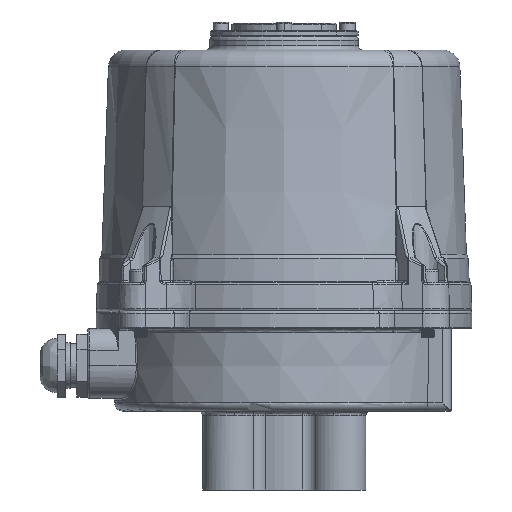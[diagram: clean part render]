
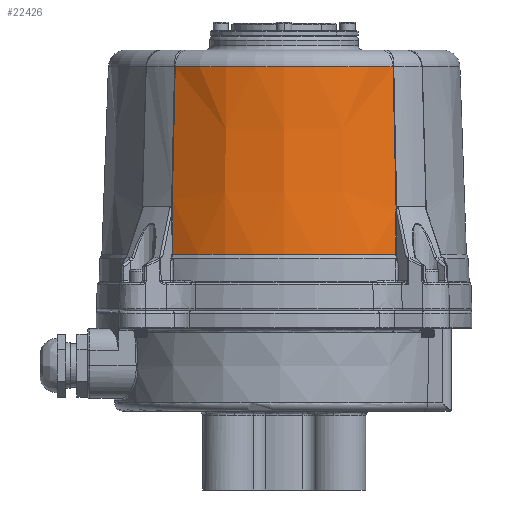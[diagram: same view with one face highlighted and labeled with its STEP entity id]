
A CAD part, front view. The second image highlights one B-rep face of the part: STEP entity #22426.
In plain terms, the highlighted conical face has half-angle 2 degrees and reference radius 80.225 mm.
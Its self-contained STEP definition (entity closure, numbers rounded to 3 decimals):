
#785 = VERTEX_POINT ( 'NONE', #9285 ) ;
#1356 = CARTESIAN_POINT ( 'NONE',  ( 0., -7.721, 0. ) ) ;
#1960 = CARTESIAN_POINT ( 'NONE',  ( 63.343, -13.9, 50.018 ) ) ;
#2347 = EDGE_CURVE ( 'NONE', #59447, #785, #36026, .T. ) ;
#3198 = CARTESIAN_POINT ( 'NONE',  ( 65.126, -73.098, -51.095 ) ) ;
#3697 = CARTESIAN_POINT ( 'NONE',  ( 65.325, -75.542, -50.98 ) ) ;
#4881 = CARTESIAN_POINT ( 'NONE',  ( 63.631, -24.285, -50.239 ) ) ;
#6038 = CIRCLE ( 'NONE', #25467, 80.495 ) ;
#6132 = CARTESIAN_POINT ( 'NONE',  ( 66.204, -93.5, -50.868 ) ) ;
#7604 = CARTESIAN_POINT ( 'NONE',  ( 64.958, -72.192, -51.257 ) ) ;
#9036 = CARTESIAN_POINT ( 'NONE',  ( 65.296, -74.952, -50.984 ) ) ;
#9285 = CARTESIAN_POINT ( 'NONE',  ( 66.083, -93.5, 51.026 ) ) ;
#10064 = CARTESIAN_POINT ( 'NONE',  ( 64.94, -71.529, -51.243 ) ) ;
#11002 = CARTESIAN_POINT ( 'NONE',  ( 64.957, -70.599, 51.169 ) ) ;
#11469 = CARTESIAN_POINT ( 'NONE',  ( 64.905, -69.533, 51.175 ) ) ;
#11682 = CARTESIAN_POINT ( 'NONE',  ( 64.866, -68.734, 51.18 ) ) ;
#12525 = CARTESIAN_POINT ( 'NONE',  ( 66.165, -92.701, -50.873 ) ) ;
#14242 = B_SPLINE_CURVE_WITH_KNOTS ( 'NONE', 3,
 ( #22445, #33029, #38235, #12525, #48629, #24428, #24209, #34147, #44774, #60452, #60686, #3697, #40026 ),
 .UNSPECIFIED., .F., .F.,
 ( 4, 3, 3, 3, 4 ),
 ( 0., 0.001, 0.004, 0.017, 0.019 ),
 .UNSPECIFIED. ) ;
#15598 = DIRECTION ( 'NONE',  ( 0., 0., 1. ) ) ;
#16261 = CARTESIAN_POINT ( 'NONE',  ( 0., 0., 0. ) ) ;
#16396 = CARTESIAN_POINT ( 'NONE',  ( 63.172, -7.721, 49.886 ) ) ;
#16859 = DIRECTION ( 'NONE',  ( 0., 0., 1. ) ) ;
#17081 = CARTESIAN_POINT ( 'NONE',  ( 63.172, -7.721, -49.886 ) ) ;
#17085 = DIRECTION ( 'NONE',  ( 0., -1., 0. ) ) ;
#17989 = CARTESIAN_POINT ( 'NONE',  ( 64.859, -68.601, 51.181 ) ) ;
#18824 = EDGE_CURVE ( 'NONE', #58265, #24305, #25959, .T. ) ;
#20770 = CARTESIAN_POINT ( 'NONE',  ( 63.172, -7.721, 49.886 ) ) ;
#20910 = CARTESIAN_POINT ( 'NONE',  ( 64.922, -70.867, -51.229 ) ) ;
#21118 = AXIS2_PLACEMENT_3D ( 'NONE', #48198, #17085, #16859 ) ;
#21396 = CARTESIAN_POINT ( 'NONE',  ( 64.872, -68.867, 51.179 ) ) ;
#22383 = VERTEX_POINT ( 'NONE', #20770 ) ;
#22426 = ADVANCED_FACE ( 'NONE', ( #23870 ), #64429, .T. ) ;
#22445 = CARTESIAN_POINT ( 'NONE',  ( 66.204, -93.5, -50.868 ) ) ;
#23870 = FACE_OUTER_BOUND ( 'NONE', #26855, .T. ) ;
#23929 = CARTESIAN_POINT ( 'NONE',  ( 65.056, -72.641, -51.158 ) ) ;
#24209 = CARTESIAN_POINT ( 'NONE',  ( 66.009, -89.505, -50.893 ) ) ;
#24305 = VERTEX_POINT ( 'NONE', #17081 ) ;
#24428 = CARTESIAN_POINT ( 'NONE',  ( 66.061, -90.57, -50.887 ) ) ;
#25198 = ORIENTED_EDGE ( 'NONE', *, *, #2347, .T. ) ;
#25467 = AXIS2_PLACEMENT_3D ( 'NONE', #1356, #26850, #47382 ) ;
#25566 = ORIENTED_EDGE ( 'NONE', *, *, #66830, .T. ) ;
#25959 = B_SPLINE_CURVE_WITH_KNOTS ( 'NONE', 3,
 ( #46418, #10064, #20910, #56679, #26314, #61915, #57133, #26088, #4881, #31477 ),
 .UNSPECIFIED., .F., .F.,
 ( 4, 3, 3, 4 ),
 ( 0.002, 0.004, 0.017, 0.067 ),
 .UNSPECIFIED. ) ;
#26088 = CARTESIAN_POINT ( 'NONE',  ( 64.09, -40.849, -50.591 ) ) ;
#26314 = CARTESIAN_POINT ( 'NONE',  ( 64.785, -65.941, -51.124 ) ) ;
#26569 = CARTESIAN_POINT ( 'NONE',  ( 64.879, -69.001, 51.178 ) ) ;
#26794 = CARTESIAN_POINT ( 'NONE',  ( 64.931, -70.066, 51.172 ) ) ;
#26850 = DIRECTION ( 'NONE',  ( 0., -1., 0. ) ) ;
#26855 = EDGE_LOOP ( 'NONE', ( #64269, #35841, #52572, #25198, #40986, #25566, #28978 ) ) ;
#28320 = CARTESIAN_POINT ( 'NONE',  ( 63.902, -34.046, 50.446 ) ) ;
#28978 = ORIENTED_EDGE ( 'NONE', *, *, #37498, .T. ) ;
#29118 = CARTESIAN_POINT ( 'NONE',  ( 64.958, -72.192, -51.257 ) ) ;
#31477 = CARTESIAN_POINT ( 'NONE',  ( 63.172, -7.721, -49.886 ) ) ;
#33029 = CARTESIAN_POINT ( 'NONE',  ( 66.191, -93.234, -50.87 ) ) ;
#33300 = CARTESIAN_POINT ( 'NONE',  ( 64.374, -51.102, 50.809 ) ) ;
#33580 = VERTEX_POINT ( 'NONE', #6132 ) ;
#34147 = CARTESIAN_POINT ( 'NONE',  ( 65.8, -85.243, -50.92 ) ) ;
#35085 = VERTEX_POINT ( 'NONE', #51337 ) ;
#35841 = ORIENTED_EDGE ( 'NONE', *, *, #53405, .T. ) ;
#36026 = B_SPLINE_CURVE_WITH_KNOTS ( 'NONE', 3,
 ( #52143, #11682, #21396, #26569, #11469, #26794, #11002, #37605, #52811, #57619, #37394, #37178, #62846 ),
 .UNSPECIFIED., .F., .F.,
 ( 4, 3, 3, 3, 4 ),
 ( 0., 0., 0.002, 0.008, 0.025 ),
 .UNSPECIFIED. ) ;
#36792 = CARTESIAN_POINT ( 'NONE',  ( 64.859, -68.601, 51.181 ) ) ;
#37178 = CARTESIAN_POINT ( 'NONE',  ( 65.813, -87.997, 51.061 ) ) ;
#37394 = CARTESIAN_POINT ( 'NONE',  ( 65.543, -82.494, 51.096 ) ) ;
#37498 = EDGE_CURVE ( 'NONE', #35085, #58265, #38767, .T. ) ;
#37605 = CARTESIAN_POINT ( 'NONE',  ( 65.062, -72.729, 51.156 ) ) ;
#38235 = CARTESIAN_POINT ( 'NONE',  ( 66.178, -92.967, -50.872 ) ) ;
#38767 = B_SPLINE_CURVE_WITH_KNOTS ( 'NONE', 3,
 ( #9036, #45164, #39303, #3198, #23929, #29118 ),
 .UNSPECIFIED., .F., .F.,
 ( 4, 2, 4 ),
 ( 0., 0.001, 0.003 ),
 .UNSPECIFIED. ) ;
#39303 = CARTESIAN_POINT ( 'NONE',  ( 65.235, -74.019, -51.008 ) ) ;
#40026 = CARTESIAN_POINT ( 'NONE',  ( 65.296, -74.952, -50.984 ) ) ;
#40986 = ORIENTED_EDGE ( 'NONE', *, *, #62115, .F. ) ;
#41482 = EDGE_CURVE ( 'NONE', #22383, #59447, #47121, .T. ) ;
#43916 = CARTESIAN_POINT ( 'NONE',  ( 64.851, -68.306, 51.175 ) ) ;
#44774 = CARTESIAN_POINT ( 'NONE',  ( 65.592, -80.982, -50.947 ) ) ;
#45164 = CARTESIAN_POINT ( 'NONE',  ( 65.273, -74.484, -50.987 ) ) ;
#46418 = CARTESIAN_POINT ( 'NONE',  ( 64.958, -72.192, -51.257 ) ) ;
#47121 = B_SPLINE_CURVE_WITH_KNOTS ( 'NONE', 3,
 ( #16396, #59143, #1960, #63027, #28320, #33300, #49110, #43916, #54359, #17989 ),
 .UNSPECIFIED., .F., .F.,
 ( 4, 3, 3, 4 ),
 ( 0.008, 0.017, 0.068, 0.069 ),
 .UNSPECIFIED. ) ;
#47382 = DIRECTION ( 'NONE',  ( 0., 0., 1. ) ) ;
#48198 = CARTESIAN_POINT ( 'NONE',  ( 0., -93.5, 0. ) ) ;
#48629 = CARTESIAN_POINT ( 'NONE',  ( 66.113, -91.636, -50.88 ) ) ;
#49110 = CARTESIAN_POINT ( 'NONE',  ( 64.847, -68.158, 51.171 ) ) ;
#51337 = CARTESIAN_POINT ( 'NONE',  ( 65.296, -74.952, -50.984 ) ) ;
#52143 = CARTESIAN_POINT ( 'NONE',  ( 64.859, -68.601, 51.181 ) ) ;
#52572 = ORIENTED_EDGE ( 'NONE', *, *, #41482, .T. ) ;
#52811 = CARTESIAN_POINT ( 'NONE',  ( 65.167, -74.86, 51.143 ) ) ;
#53405 = EDGE_CURVE ( 'NONE', #24305, #22383, #6038, .T. ) ;
#54157 = AXIS2_PLACEMENT_3D ( 'NONE', #16261, #62891, #15598 ) ;
#54359 = CARTESIAN_POINT ( 'NONE',  ( 64.855, -68.454, 51.178 ) ) ;
#55793 = CIRCLE ( 'NONE', #21118, 83.49 ) ;
#56679 = CARTESIAN_POINT ( 'NONE',  ( 64.903, -70.205, -51.215 ) ) ;
#57133 = CARTESIAN_POINT ( 'NONE',  ( 64.549, -57.413, -50.943 ) ) ;
#57619 = CARTESIAN_POINT ( 'NONE',  ( 65.272, -76.991, 51.129 ) ) ;
#58265 = VERTEX_POINT ( 'NONE', #7604 ) ;
#59143 = CARTESIAN_POINT ( 'NONE',  ( 63.258, -10.81, 49.952 ) ) ;
#59447 = VERTEX_POINT ( 'NONE', #36792 ) ;
#60452 = CARTESIAN_POINT ( 'NONE',  ( 65.382, -76.72, -50.973 ) ) ;
#60686 = CARTESIAN_POINT ( 'NONE',  ( 65.354, -76.131, -50.976 ) ) ;
#61915 = CARTESIAN_POINT ( 'NONE',  ( 64.667, -61.677, -51.034 ) ) ;
#62115 = EDGE_CURVE ( 'NONE', #33580, #785, #55793, .T. ) ;
#62846 = CARTESIAN_POINT ( 'NONE',  ( 66.083, -93.5, 51.026 ) ) ;
#62891 = DIRECTION ( 'NONE',  ( 0., -1., 0. ) ) ;
#63027 = CARTESIAN_POINT ( 'NONE',  ( 63.429, -16.99, 50.084 ) ) ;
#64269 = ORIENTED_EDGE ( 'NONE', *, *, #18824, .T. ) ;
#64429 = CONICAL_SURFACE ( 'NONE', #54157, 80.225, 0.035 ) ;
#66830 = EDGE_CURVE ( 'NONE', #33580, #35085, #14242, .T. ) ;
